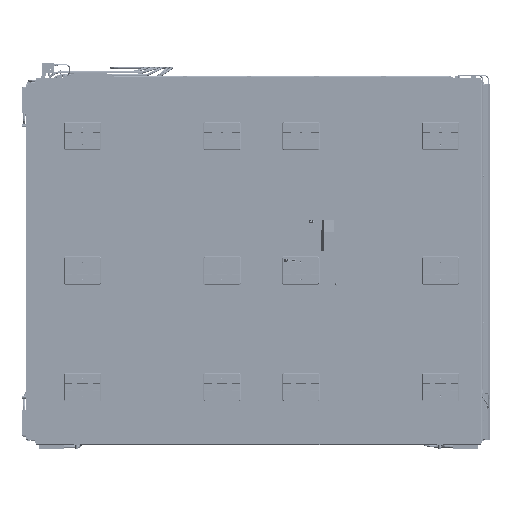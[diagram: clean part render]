
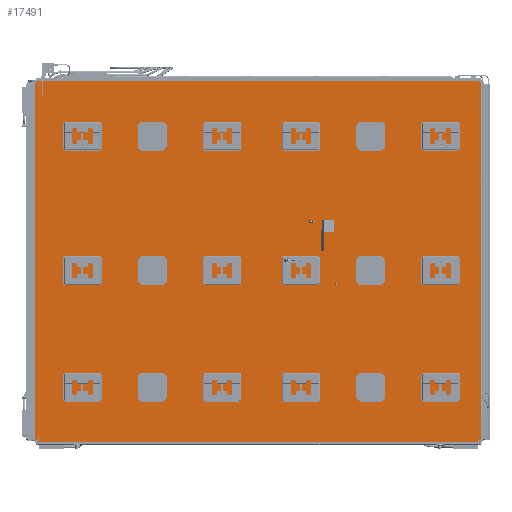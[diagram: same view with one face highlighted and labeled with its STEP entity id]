
A CAD part, front view. The second image highlights one B-rep face of the part: STEP entity #17491.
In plain terms, the highlighted planar face has unit normal (0, -1, 0).
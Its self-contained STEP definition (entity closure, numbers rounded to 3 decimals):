
#17491=ADVANCED_FACE('',(#32529),#26706,.T.);
#26706=PLANE('',#192821);
#32529=FACE_OUTER_BOUND('',#40244,.T.);
#40244=EDGE_LOOP('',(#52271,#52272,#52273,#52274));
#52271=ORIENTED_EDGE('',*,*,#107673,.T.);
#52272=ORIENTED_EDGE('',*,*,#107669,.T.);
#52273=ORIENTED_EDGE('',*,*,#107674,.F.);
#52274=ORIENTED_EDGE('',*,*,#107675,.T.);
#93898=VERTEX_POINT('',#251168);
#93899=VERTEX_POINT('',#251169);
#93902=VERTEX_POINT('',#251177);
#93903=VERTEX_POINT('',#251179);
#107669=EDGE_CURVE('',#93898,#93899,#172523,.T.);
#107673=EDGE_CURVE('',#93902,#93898,#172527,.T.);
#107674=EDGE_CURVE('',#93903,#93899,#172528,.T.);
#107675=EDGE_CURVE('',#93903,#93902,#172529,.T.);
#172523=LINE('',#251167,#183637);
#172527=LINE('',#251176,#183641);
#172528=LINE('',#251178,#183642);
#172529=LINE('',#251180,#183643);
#183637=VECTOR('',#210380,1.);
#183641=VECTOR('',#210386,1.);
#183642=VECTOR('',#210387,1.);
#183643=VECTOR('',#210388,1.);
#192821=AXIS2_PLACEMENT_3D('',#251181,#210389,#210390);
#210380=DIRECTION('',(-1.,0.,0.));
#210386=DIRECTION('',(0.,0.,1.));
#210387=DIRECTION('',(0.,0.,1.));
#210388=DIRECTION('',(1.,0.,0.));
#210389=DIRECTION('',(0.,-1.,0.));
#210390=DIRECTION('',(0.,0.,-1.));
#251167=CARTESIAN_POINT('',(1533.,0.,2487.));
#251168=CARTESIAN_POINT('',(3066.,0.,2487.));
#251169=CARTESIAN_POINT('',(0.,0.,2487.));
#251176=CARTESIAN_POINT('',(3066.,0.,0.));
#251177=CARTESIAN_POINT('',(3066.,0.,0.));
#251178=CARTESIAN_POINT('',(0.,0.,0.));
#251179=CARTESIAN_POINT('',(0.,0.,0.));
#251180=CARTESIAN_POINT('',(1533.,0.,0.));
#251181=CARTESIAN_POINT('',(1533.,0.,0.));
